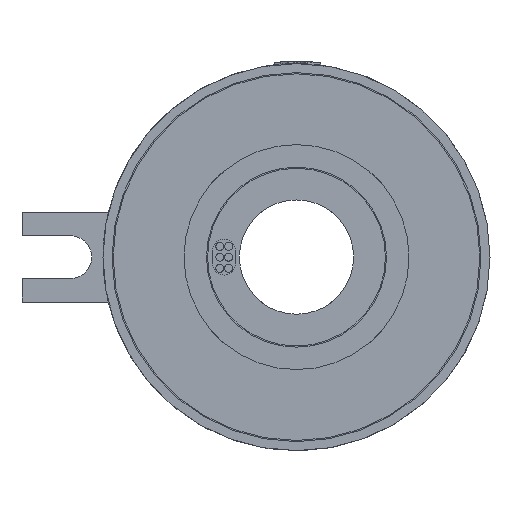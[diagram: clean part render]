
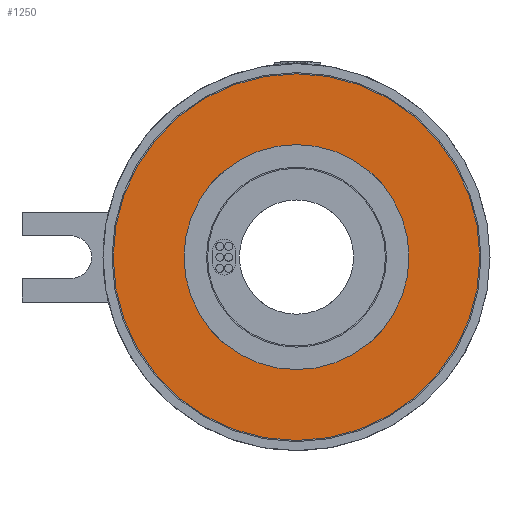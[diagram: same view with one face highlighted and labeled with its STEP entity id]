
A CAD part, front view. The second image highlights one B-rep face of the part: STEP entity #1250.
In plain terms, the highlighted planar face has unit normal (0, -1, 0).
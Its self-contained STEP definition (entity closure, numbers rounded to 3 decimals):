
#207=FACE_BOUND('',#2491,.T.);
#208=FACE_BOUND('',#2492,.T.);
#353=CIRCLE('',#7617,20.);
#357=CIRCLE('',#7623,40.75);
#358=CIRCLE('',#7624,40.75);
#359=CIRCLE('',#7625,20.);
#732=PLANE('',#7626);
#1250=ADVANCED_FACE('',(#207,#208),#732,.F.);
#2491=EDGE_LOOP('',(#4017,#4018));
#2492=EDGE_LOOP('',(#4019,#4020));
#4017=ORIENTED_EDGE('',*,*,#6348,.T.);
#4018=ORIENTED_EDGE('',*,*,#6349,.T.);
#4019=ORIENTED_EDGE('',*,*,#6350,.T.);
#4020=ORIENTED_EDGE('',*,*,#6344,.T.);
#5376=VERTEX_POINT('',#23084);
#5377=VERTEX_POINT('',#23086);
#5380=VERTEX_POINT('',#23096);
#5381=VERTEX_POINT('',#23097);
#6344=EDGE_CURVE('',#5376,#5377,#353,.T.);
#6348=EDGE_CURVE('',#5380,#5381,#357,.T.);
#6349=EDGE_CURVE('',#5381,#5380,#358,.T.);
#6350=EDGE_CURVE('',#5377,#5376,#359,.T.);
#7617=AXIS2_PLACEMENT_3D('',#23087,#8696,#8697);
#7623=AXIS2_PLACEMENT_3D('',#23095,#8708,#8709);
#7624=AXIS2_PLACEMENT_3D('',#23098,#8710,#8711);
#7625=AXIS2_PLACEMENT_3D('',#23099,#8712,#8713);
#7626=AXIS2_PLACEMENT_3D('',#23100,#8714,#8715);
#8696=DIRECTION('',(0.,1.,0.));
#8697=DIRECTION('',(1.,0.,0.));
#8708=DIRECTION('',(0.,-1.,0.));
#8709=DIRECTION('',(1.,0.,0.));
#8710=DIRECTION('',(0.,-1.,0.));
#8711=DIRECTION('',(-1.,0.,0.));
#8712=DIRECTION('',(0.,1.,0.));
#8713=DIRECTION('',(-1.,0.,0.));
#8714=DIRECTION('',(0.,1.,0.));
#8715=DIRECTION('',(-1.,0.,0.));
#23084=CARTESIAN_POINT('',(20.,9.5,0.));
#23086=CARTESIAN_POINT('',(-20.,9.5,0.));
#23087=CARTESIAN_POINT('',(0.,9.5,0.));
#23095=CARTESIAN_POINT('',(0.,9.5,0.));
#23096=CARTESIAN_POINT('',(40.75,9.5,0.));
#23097=CARTESIAN_POINT('',(-40.75,9.5,0.));
#23098=CARTESIAN_POINT('',(0.,9.5,0.));
#23099=CARTESIAN_POINT('',(0.,9.5,0.));
#23100=CARTESIAN_POINT('',(0.,9.5,0.));
